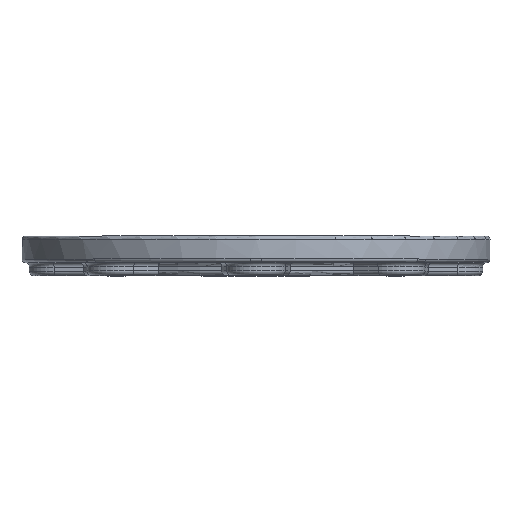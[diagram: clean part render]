
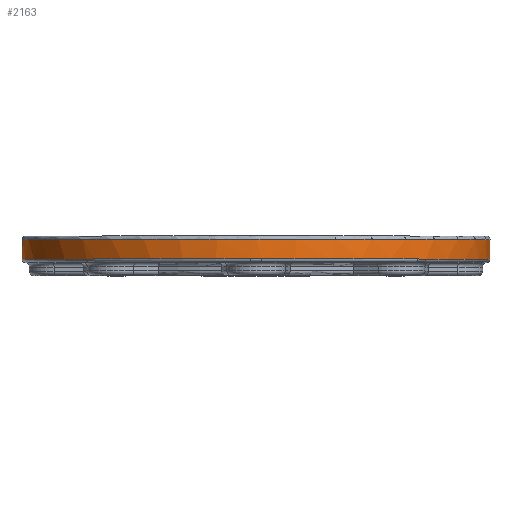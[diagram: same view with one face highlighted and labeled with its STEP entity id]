
A CAD part, top view. The second image highlights one B-rep face of the part: STEP entity #2163.
In plain terms, the highlighted cylindrical face has radius 142.5 mm (diameter 285 mm), a full revolution.
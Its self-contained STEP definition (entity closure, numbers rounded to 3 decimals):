
#71=B_SPLINE_CURVE_WITH_KNOTS('',3,(#3595,#3596,#3597,#3598),
 .UNSPECIFIED.,.F.,.F.,(4,4),(0.,0.007),.UNSPECIFIED.);
#72=B_SPLINE_CURVE_WITH_KNOTS('',3,(#3602,#3603,#3604,#3605),
 .UNSPECIFIED.,.F.,.F.,(4,4),(0.,0.007),.UNSPECIFIED.);
#73=B_SPLINE_CURVE_WITH_KNOTS('',3,(#3609,#3610,#3611,#3612),
 .UNSPECIFIED.,.F.,.F.,(4,4),(0.,0.007),.UNSPECIFIED.);
#74=B_SPLINE_CURVE_WITH_KNOTS('',3,(#3616,#3617,#3618,#3619),
 .UNSPECIFIED.,.F.,.F.,(4,4),(0.,0.007),.UNSPECIFIED.);
#75=B_SPLINE_CURVE_WITH_KNOTS('',3,(#3623,#3624,#3625,#3626),
 .UNSPECIFIED.,.F.,.F.,(4,4),(0.,0.007),.UNSPECIFIED.);
#76=B_SPLINE_CURVE_WITH_KNOTS('',3,(#3630,#3631,#3632,#3633),
 .UNSPECIFIED.,.F.,.F.,(4,4),(0.,0.007),.UNSPECIFIED.);
#77=B_SPLINE_CURVE_WITH_KNOTS('',3,(#3637,#3638,#3639,#3640),
 .UNSPECIFIED.,.F.,.F.,(4,4),(0.,0.007),.UNSPECIFIED.);
#78=B_SPLINE_CURVE_WITH_KNOTS('',3,(#3644,#3645,#3646,#3647),
 .UNSPECIFIED.,.F.,.F.,(4,4),(0.,0.007),.UNSPECIFIED.);
#143=CYLINDRICAL_SURFACE('',#2403,142.5);
#512=ORIENTED_EDGE('',*,*,#1127,.T.);
#513=ORIENTED_EDGE('',*,*,#1128,.T.);
#514=ORIENTED_EDGE('',*,*,#1129,.T.);
#515=ORIENTED_EDGE('',*,*,#1130,.T.);
#516=ORIENTED_EDGE('',*,*,#1131,.T.);
#517=ORIENTED_EDGE('',*,*,#1132,.T.);
#518=ORIENTED_EDGE('',*,*,#1133,.T.);
#519=ORIENTED_EDGE('',*,*,#1134,.T.);
#520=ORIENTED_EDGE('',*,*,#1135,.T.);
#521=ORIENTED_EDGE('',*,*,#1136,.T.);
#522=ORIENTED_EDGE('',*,*,#1137,.T.);
#523=ORIENTED_EDGE('',*,*,#1138,.T.);
#524=ORIENTED_EDGE('',*,*,#1139,.T.);
#525=ORIENTED_EDGE('',*,*,#1140,.T.);
#526=ORIENTED_EDGE('',*,*,#1141,.T.);
#527=ORIENTED_EDGE('',*,*,#1142,.T.);
#528=ORIENTED_EDGE('',*,*,#1143,.T.);
#1127=EDGE_CURVE('',#1445,#1445,#1613,.F.);
#1128=EDGE_CURVE('',#1446,#1447,#1614,.T.);
#1129=EDGE_CURVE('',#1447,#1448,#71,.T.);
#1130=EDGE_CURVE('',#1448,#1449,#1615,.T.);
#1131=EDGE_CURVE('',#1449,#1450,#72,.T.);
#1132=EDGE_CURVE('',#1450,#1451,#1616,.T.);
#1133=EDGE_CURVE('',#1451,#1452,#73,.T.);
#1134=EDGE_CURVE('',#1452,#1453,#1617,.T.);
#1135=EDGE_CURVE('',#1453,#1454,#74,.T.);
#1136=EDGE_CURVE('',#1454,#1455,#1618,.T.);
#1137=EDGE_CURVE('',#1455,#1456,#75,.T.);
#1138=EDGE_CURVE('',#1456,#1457,#1619,.T.);
#1139=EDGE_CURVE('',#1457,#1458,#76,.T.);
#1140=EDGE_CURVE('',#1458,#1459,#1620,.T.);
#1141=EDGE_CURVE('',#1459,#1460,#77,.T.);
#1142=EDGE_CURVE('',#1460,#1461,#1621,.T.);
#1143=EDGE_CURVE('',#1461,#1446,#78,.T.);
#1445=VERTEX_POINT('',#3591);
#1446=VERTEX_POINT('',#3593);
#1447=VERTEX_POINT('',#3594);
#1448=VERTEX_POINT('',#3599);
#1449=VERTEX_POINT('',#3601);
#1450=VERTEX_POINT('',#3606);
#1451=VERTEX_POINT('',#3608);
#1452=VERTEX_POINT('',#3613);
#1453=VERTEX_POINT('',#3615);
#1454=VERTEX_POINT('',#3620);
#1455=VERTEX_POINT('',#3622);
#1456=VERTEX_POINT('',#3627);
#1457=VERTEX_POINT('',#3629);
#1458=VERTEX_POINT('',#3634);
#1459=VERTEX_POINT('',#3636);
#1460=VERTEX_POINT('',#3641);
#1461=VERTEX_POINT('',#3643);
#1613=CIRCLE('',#2404,142.5);
#1614=CIRCLE('',#2405,142.5);
#1615=CIRCLE('',#2406,142.5);
#1616=CIRCLE('',#2407,142.5);
#1617=CIRCLE('',#2408,142.5);
#1618=CIRCLE('',#2409,142.5);
#1619=CIRCLE('',#2410,142.5);
#1620=CIRCLE('',#2411,142.5);
#1621=CIRCLE('',#2412,142.5);
#1772=EDGE_LOOP('',(#512));
#1773=EDGE_LOOP('',(#513,#514,#515,#516,#517,#518,#519,#520,#521,#522,#523,
#524,#525,#526,#527,#528));
#1970=FACE_BOUND('',#1772,.T.);
#1971=FACE_BOUND('',#1773,.T.);
#2163=ADVANCED_FACE('',(#1970,#1971),#143,.T.);
#2403=AXIS2_PLACEMENT_3D('',#3589,#2858,#2859);
#2404=AXIS2_PLACEMENT_3D('',#3590,#2860,#2861);
#2405=AXIS2_PLACEMENT_3D('',#3592,#2862,#2863);
#2406=AXIS2_PLACEMENT_3D('',#3600,#2864,#2865);
#2407=AXIS2_PLACEMENT_3D('',#3607,#2866,#2867);
#2408=AXIS2_PLACEMENT_3D('',#3614,#2868,#2869);
#2409=AXIS2_PLACEMENT_3D('',#3621,#2870,#2871);
#2410=AXIS2_PLACEMENT_3D('',#3628,#2872,#2873);
#2411=AXIS2_PLACEMENT_3D('',#3635,#2874,#2875);
#2412=AXIS2_PLACEMENT_3D('',#3642,#2876,#2877);
#2858=DIRECTION('',(0.,-1.,0.));
#2859=DIRECTION('',(0.,0.,-1.));
#2860=DIRECTION('',(0.,1.,0.));
#2861=DIRECTION('',(0.,0.,1.));
#2862=DIRECTION('',(0.,1.,0.));
#2863=DIRECTION('',(0.,0.,1.));
#2864=DIRECTION('',(0.,1.,0.));
#2865=DIRECTION('',(0.,0.,1.));
#2866=DIRECTION('',(0.,1.,0.));
#2867=DIRECTION('',(0.,0.,1.));
#2868=DIRECTION('',(0.,1.,0.));
#2869=DIRECTION('',(0.,0.,1.));
#2870=DIRECTION('',(0.,1.,0.));
#2871=DIRECTION('',(0.,0.,1.));
#2872=DIRECTION('',(0.,1.,0.));
#2873=DIRECTION('',(0.,0.,1.));
#2874=DIRECTION('',(0.,1.,0.));
#2875=DIRECTION('',(0.,0.,1.));
#2876=DIRECTION('',(0.,1.,0.));
#2877=DIRECTION('',(0.,0.,1.));
#3589=CARTESIAN_POINT('',(0.,24.,0.));
#3590=CARTESIAN_POINT('',(0.,22.,0.));
#3591=CARTESIAN_POINT('',(0.,22.,142.5));
#3592=CARTESIAN_POINT('',(0.,10.,0.));
#3593=CARTESIAN_POINT('',(3.524,10.,142.456));
#3594=CARTESIAN_POINT('',(98.24,10.,103.224));
#3595=CARTESIAN_POINT('',(98.24,10.,103.224));
#3596=CARTESIAN_POINT('',(99.942,10.,101.604));
#3597=CARTESIAN_POINT('',(101.604,10.,99.942));
#3598=CARTESIAN_POINT('',(103.224,10.,98.24));
#3599=CARTESIAN_POINT('',(103.224,10.,98.24));
#3600=CARTESIAN_POINT('',(0.,10.,0.));
#3601=CARTESIAN_POINT('',(142.456,10.,3.524));
#3602=CARTESIAN_POINT('',(142.456,10.,3.524));
#3603=CARTESIAN_POINT('',(142.515,10.,1.175));
#3604=CARTESIAN_POINT('',(142.515,10.,-1.175));
#3605=CARTESIAN_POINT('',(142.456,10.,-3.524));
#3606=CARTESIAN_POINT('',(142.456,10.,-3.524));
#3607=CARTESIAN_POINT('',(0.,10.,0.));
#3608=CARTESIAN_POINT('',(103.224,10.,-98.24));
#3609=CARTESIAN_POINT('',(103.224,10.,-98.24));
#3610=CARTESIAN_POINT('',(101.604,10.,-99.942));
#3611=CARTESIAN_POINT('',(99.942,10.,-101.604));
#3612=CARTESIAN_POINT('',(98.24,10.,-103.224));
#3613=CARTESIAN_POINT('',(98.24,10.,-103.224));
#3614=CARTESIAN_POINT('',(0.,10.,0.));
#3615=CARTESIAN_POINT('',(3.524,10.,-142.456));
#3616=CARTESIAN_POINT('',(3.524,10.,-142.456));
#3617=CARTESIAN_POINT('',(1.175,10.,-142.515));
#3618=CARTESIAN_POINT('',(-1.175,10.,-142.515));
#3619=CARTESIAN_POINT('',(-3.524,10.,-142.456));
#3620=CARTESIAN_POINT('',(-3.524,10.,-142.456));
#3621=CARTESIAN_POINT('',(0.,10.,0.));
#3622=CARTESIAN_POINT('',(-98.24,10.,-103.224));
#3623=CARTESIAN_POINT('',(-98.24,10.,-103.224));
#3624=CARTESIAN_POINT('',(-99.942,10.,-101.604));
#3625=CARTESIAN_POINT('',(-101.604,10.,-99.942));
#3626=CARTESIAN_POINT('',(-103.224,10.,-98.24));
#3627=CARTESIAN_POINT('',(-103.224,10.,-98.24));
#3628=CARTESIAN_POINT('',(0.,10.,0.));
#3629=CARTESIAN_POINT('',(-142.456,10.,-3.524));
#3630=CARTESIAN_POINT('',(-142.456,10.,-3.524));
#3631=CARTESIAN_POINT('',(-142.515,10.,-1.175));
#3632=CARTESIAN_POINT('',(-142.515,10.,1.175));
#3633=CARTESIAN_POINT('',(-142.456,10.,3.524));
#3634=CARTESIAN_POINT('',(-142.456,10.,3.524));
#3635=CARTESIAN_POINT('',(0.,10.,0.));
#3636=CARTESIAN_POINT('',(-103.224,10.,98.24));
#3637=CARTESIAN_POINT('',(-103.224,10.,98.24));
#3638=CARTESIAN_POINT('',(-101.604,10.,99.942));
#3639=CARTESIAN_POINT('',(-99.942,10.,101.604));
#3640=CARTESIAN_POINT('',(-98.24,10.,103.224));
#3641=CARTESIAN_POINT('',(-98.24,10.,103.224));
#3642=CARTESIAN_POINT('',(0.,10.,0.));
#3643=CARTESIAN_POINT('',(-3.524,10.,142.456));
#3644=CARTESIAN_POINT('',(-3.524,10.,142.456));
#3645=CARTESIAN_POINT('',(-1.175,10.,142.515));
#3646=CARTESIAN_POINT('',(1.175,10.,142.515));
#3647=CARTESIAN_POINT('',(3.524,10.,142.456));
